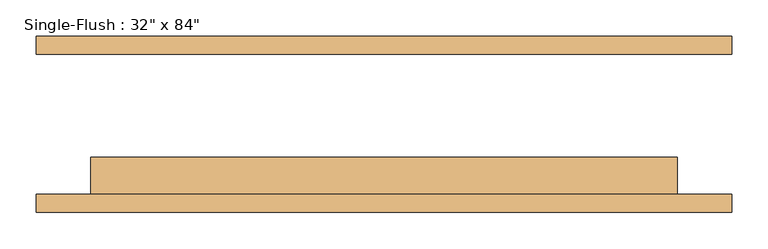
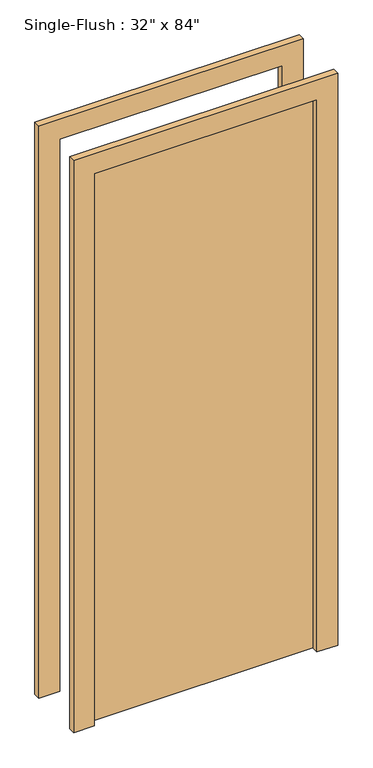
"""IFC4 building model written with IfcOpenShell, lengths in millimetres: door geometry."""

from ifc_helpers import new_model, si_unit, frame, origin, origin_with_axes, place, context, project, spatial, polyline, outline, extrude, source, transform, mapped, element, save


def door_46f97d73(model_context):
    return source(origin(), model_context, "Body", "SweptSolid", [
        extrude(outline(polyline([(2209.8, -482.6), (0.0, -482.6), (0.0, -406.4), (2133.6, -406.4), (2133.6, 406.4), (0.0, 406.4), (0.0, 482.6), (2209.8, 482.6), (2209.8, -482.6)])), frame((0.0, -122.2375, 0.0), z_axis=(0.0, 1.0, 0.0), x_axis=(0.0, 0.0, 1.0)), (0.0, 0.0, 1.0), 25.4),
        extrude(outline(polyline([(2209.8, 482.6), (2209.8, -482.6), (0.0, -482.6), (0.0, -406.4), (2133.6, -406.4), (2133.6, 406.4), (0.0, 406.4), (0.0, 482.6), (2209.8, 482.6)])), frame((0.0, 96.8375, 0.0), z_axis=(0.0, 1.0, 0.0), x_axis=(0.0, 0.0, 1.0)), (0.0, 0.0, 1.0), 25.4),
        extrude(outline(polyline([(406.4, -46.0375), (406.4, -96.8375), (-406.4, -96.8375), (-406.4, -46.0375), (406.4, -46.0375)])), origin_with_axes(), (0.0, 0.0, 1.0), 2133.6),
    ])


if __name__ == "__main__":
    model = new_model("IFC4")
    model_context = context("Model", 3, world=origin())
    ifc_project = project(units=[si_unit("LENGTHUNIT", "METRE", prefix="MILLI")], contexts=[model_context])
    site = spatial("IfcSite", under=ifc_project)
    building = spatial("IfcBuilding", under=site)
    placement = place(None, origin())
    door_shape = door_46f97d73(model_context)
    element("IfcDoor", 1, ObjectType="Single-Flush : 32\" x 84\"", at=placement, inside=building, context=model_context, shape_type="MappedRepresentation", body=[
        mapped(door_shape, transform((0.0, 0.0, 0.0), x_axis=(1.0, 0.0, 0.0), y_axis=(0.0, 1.0, 0.0), z_axis=(0.0, 0.0, 1.0))),
    ])
    save(model, "model.ifc")
